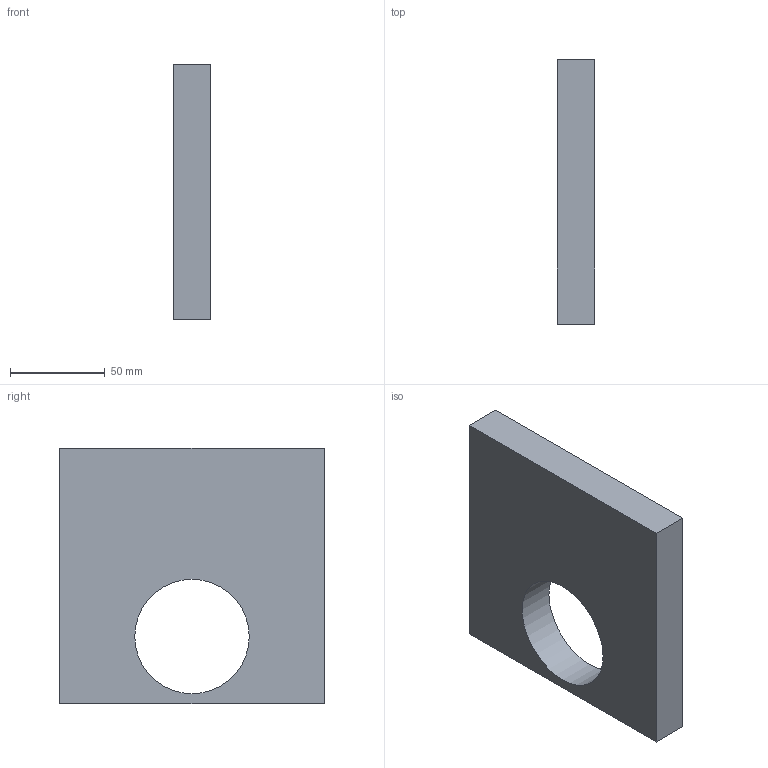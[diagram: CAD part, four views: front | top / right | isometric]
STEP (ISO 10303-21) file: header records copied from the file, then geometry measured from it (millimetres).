
FILE_DESCRIPTION(('Open CASCADE Model'),'2;1');
FILE_NAME('Open CASCADE Shape Model','2026-09-19T12:55:25',('Author'),( 'Open CASCADE'),'Open CASCADE STEP processor 7.9','Open CASCADE 7.9' ,'Unknown');
FILE_SCHEMA(('AUTOMOTIVE_DESIGN { 1 0 10303 214 1 1 1 1 }'));
Length unit declared in the file: millimetre
Products named in the file (1): Open CASCADE STEP translator 7.9 475
Bounding box: 20 x 140 x 135 mm (x, y, z)
Volume: 320504.9 mm3; surface area: 46851.8 mm2
Topology: 1 solids, 1 shells, 7 faces, 15 edges, 10 vertices
Faces by surface type: plane 6, cylinder 1
Full cylindrical faces by diameter (mm): 60.5 x1
Entity records: 400 total; most frequent: CARTESIAN_POINT 63, DIRECTION 63, LINE 41, VECTOR 41, ORIENTED_EDGE 30, PCURVE 30, DEFINITIONAL_REPRESENTATION 30, EDGE_CURVE 15
